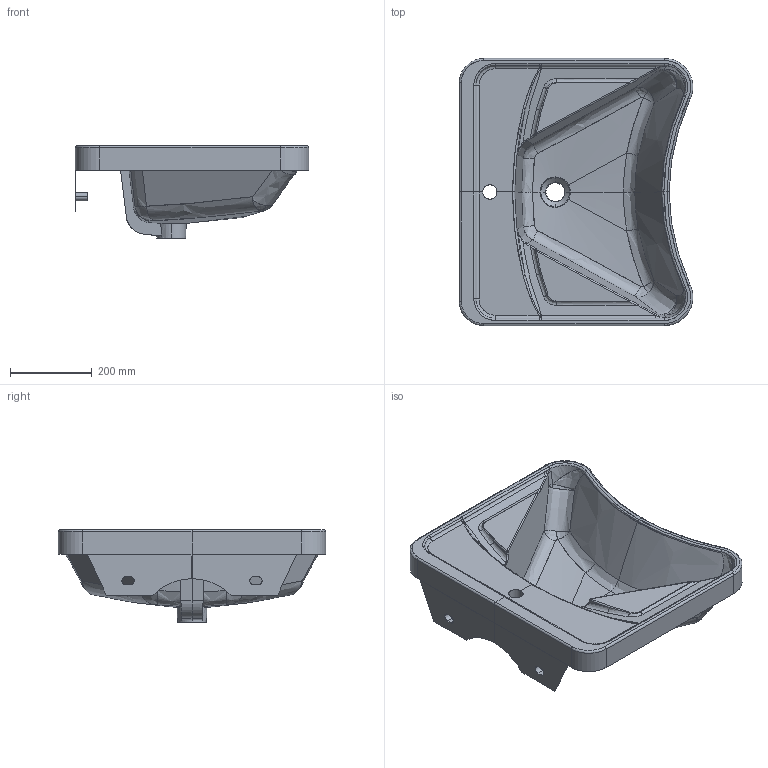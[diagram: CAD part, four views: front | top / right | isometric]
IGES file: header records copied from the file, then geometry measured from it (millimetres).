
Start section: START RECORD GO HERE.
Global section: file name: 4018_3D.igs; native system: DASSAULT SYSTEMES CATIA V5 R19 - www.3ds.com; preprocessor: CATIA Version 5 Release 19 SP 5 ; author: gioge; organization: LAPTOP-G94B6G74; date: 20201024.092921; units: millimetre
Bounding box: 571.5 x 654 x 226.5 mm (x, y, z)
Surface area: 1488937.8 mm2 (no closed solid volume)
Topology: 0 solids, 0 shells, 272 faces, 1308 edges, 1292 vertices
Faces by surface type: bspline 158, revolution 76, plane 36, extrusion 2
